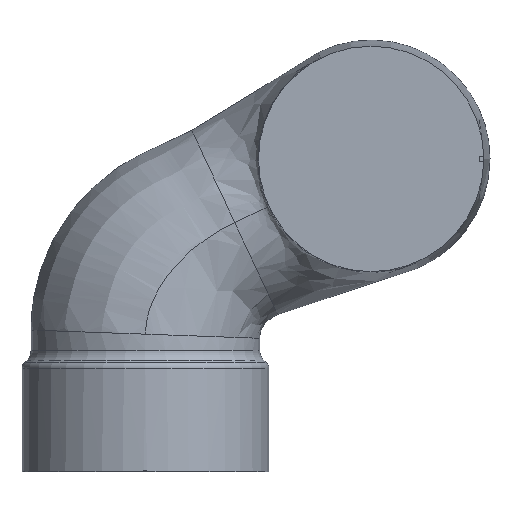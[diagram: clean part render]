
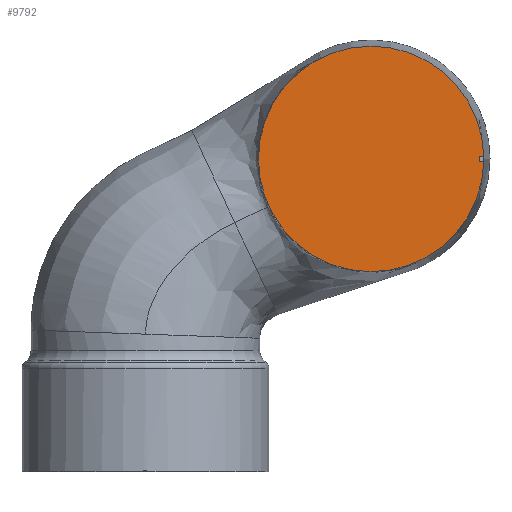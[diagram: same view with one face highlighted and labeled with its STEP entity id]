
A CAD part, front view. The second image highlights one B-rep face of the part: STEP entity #9792.
In plain terms, the highlighted planar face has unit normal (0, -1, 0).
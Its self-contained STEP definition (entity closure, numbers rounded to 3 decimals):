
#105 = VERTEX_POINT ( 'NONE', #14685 ) ;
#165 = CARTESIAN_POINT ( 'NONE',  ( 150., -78., 363.5 ) ) ;
#527 = DIRECTION ( 'NONE',  ( 1., 0., 0. ) ) ;
#693 = ORIENTED_EDGE ( 'NONE', *, *, #15589, .T. ) ;
#766 = DIRECTION ( 'NONE',  ( 1., 0., 0. ) ) ;
#786 = ORIENTED_EDGE ( 'NONE', *, *, #17647, .T. ) ;
#1111 = ORIENTED_EDGE ( 'NONE', *, *, #16630, .F. ) ;
#1143 = VECTOR ( 'NONE', #8380, 1000. ) ;
#1492 = CARTESIAN_POINT ( 'NONE',  ( 221.984, -78., 366.5 ) ) ;
#1670 = CIRCLE ( 'NONE', #15958, 72. ) ;
#1751 = ORIENTED_EDGE ( 'NONE', *, *, #5904, .F. ) ;
#1864 = CARTESIAN_POINT ( 'NONE',  ( 222., -78., 365. ) ) ;
#1917 = CIRCLE ( 'NONE', #8178, 74.912 ) ;
#2047 = EDGE_CURVE ( 'NONE', #11516, #12505, #1670, .T. ) ;
#2348 = CARTESIAN_POINT ( 'NONE',  ( 150., -78., 365. ) ) ;
#2460 = LINE ( 'NONE', #13826, #9655 ) ;
#2633 = CARTESIAN_POINT ( 'NONE',  ( 150., -78., 365. ) ) ;
#3218 = DIRECTION ( 'NONE',  ( 0., -1., 0. ) ) ;
#3708 = CARTESIAN_POINT ( 'NONE',  ( 150., -78., 365. ) ) ;
#5166 = DIRECTION ( 'NONE',  ( -1., 0., 0. ) ) ;
#5247 = DIRECTION ( 'NONE',  ( 1., 0., 0. ) ) ;
#5284 = CARTESIAN_POINT ( 'NONE',  ( 150., -78., 365. ) ) ;
#5504 = CIRCLE ( 'NONE', #16811, 72. ) ;
#5666 = ORIENTED_EDGE ( 'NONE', *, *, #2047, .T. ) ;
#5904 = EDGE_CURVE ( 'NONE', #11516, #10272, #12841, .T. ) ;
#6493 = CIRCLE ( 'NONE', #10643, 74.912 ) ;
#6739 = DIRECTION ( 'NONE',  ( 0., -1., 0. ) ) ;
#6918 = FACE_OUTER_BOUND ( 'NONE', #16028, .T. ) ;
#7179 = EDGE_CURVE ( 'NONE', #16438, #10272, #6493, .T. ) ;
#7327 = DIRECTION ( 'NONE',  ( 1., 0., 0. ) ) ;
#7377 = AXIS2_PLACEMENT_3D ( 'NONE', #2633, #6739, #5247 ) ;
#8178 = AXIS2_PLACEMENT_3D ( 'NONE', #5284, #10869, #9749 ) ;
#8380 = DIRECTION ( 'NONE',  ( 1., 0., 0. ) ) ;
#9541 = CARTESIAN_POINT ( 'NONE',  ( 75.088, -78., 365. ) ) ;
#9655 = VECTOR ( 'NONE', #5166, 1000. ) ;
#9749 = DIRECTION ( 'NONE',  ( 1., 0., 0. ) ) ;
#9792 = ADVANCED_FACE ( 'NONE', ( #6918 ), #15306, .T. ) ;
#10272 = VERTEX_POINT ( 'NONE', #13423 ) ;
#10643 = AXIS2_PLACEMENT_3D ( 'NONE', #3708, #11786, #527 ) ;
#10869 = DIRECTION ( 'NONE',  ( 0., -1., 0. ) ) ;
#11516 = VERTEX_POINT ( 'NONE', #15464 ) ;
#11786 = DIRECTION ( 'NONE',  ( 0., -1., 0. ) ) ;
#12505 = VERTEX_POINT ( 'NONE', #1864 ) ;
#12841 = LINE ( 'NONE', #165, #1143 ) ;
#13002 = CARTESIAN_POINT ( 'NONE',  ( 150., -78., 365. ) ) ;
#13423 = CARTESIAN_POINT ( 'NONE',  ( 224.897, -78., 363.5 ) ) ;
#13527 = DIRECTION ( 'NONE',  ( 0., -1., 0. ) ) ;
#13826 = CARTESIAN_POINT ( 'NONE',  ( 150., -78., 366.5 ) ) ;
#14685 = CARTESIAN_POINT ( 'NONE',  ( 224.897, -78., 366.5 ) ) ;
#15306 = PLANE ( 'NONE',  #7377 ) ;
#15464 = CARTESIAN_POINT ( 'NONE',  ( 221.984, -78., 363.5 ) ) ;
#15589 = EDGE_CURVE ( 'NONE', #105, #16438, #1917, .T. ) ;
#15958 = AXIS2_PLACEMENT_3D ( 'NONE', #13002, #3218, #7327 ) ;
#16028 = EDGE_LOOP ( 'NONE', ( #1751, #5666, #786, #1111, #693, #17349 ) ) ;
#16438 = VERTEX_POINT ( 'NONE', #9541 ) ;
#16630 = EDGE_CURVE ( 'NONE', #105, #18240, #2460, .T. ) ;
#16811 = AXIS2_PLACEMENT_3D ( 'NONE', #2348, #13527, #766 ) ;
#17349 = ORIENTED_EDGE ( 'NONE', *, *, #7179, .T. ) ;
#17647 = EDGE_CURVE ( 'NONE', #12505, #18240, #5504, .T. ) ;
#18240 = VERTEX_POINT ( 'NONE', #1492 ) ;
